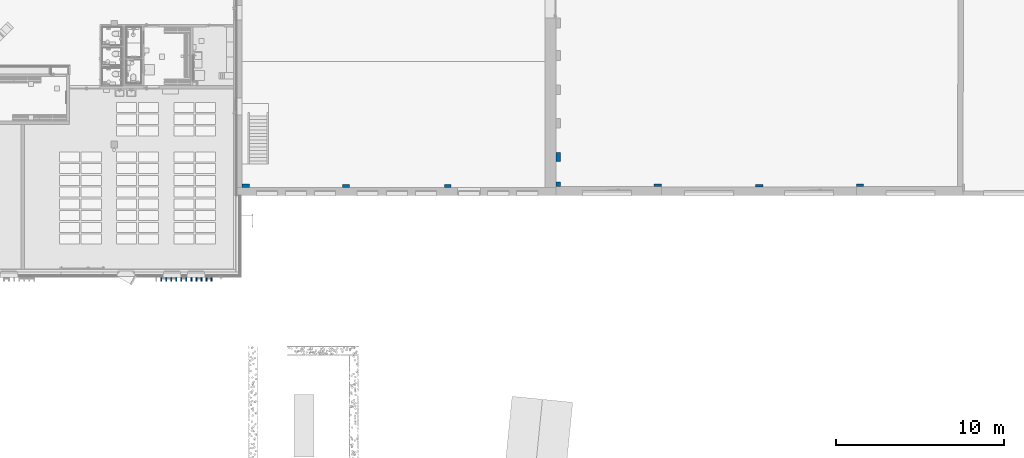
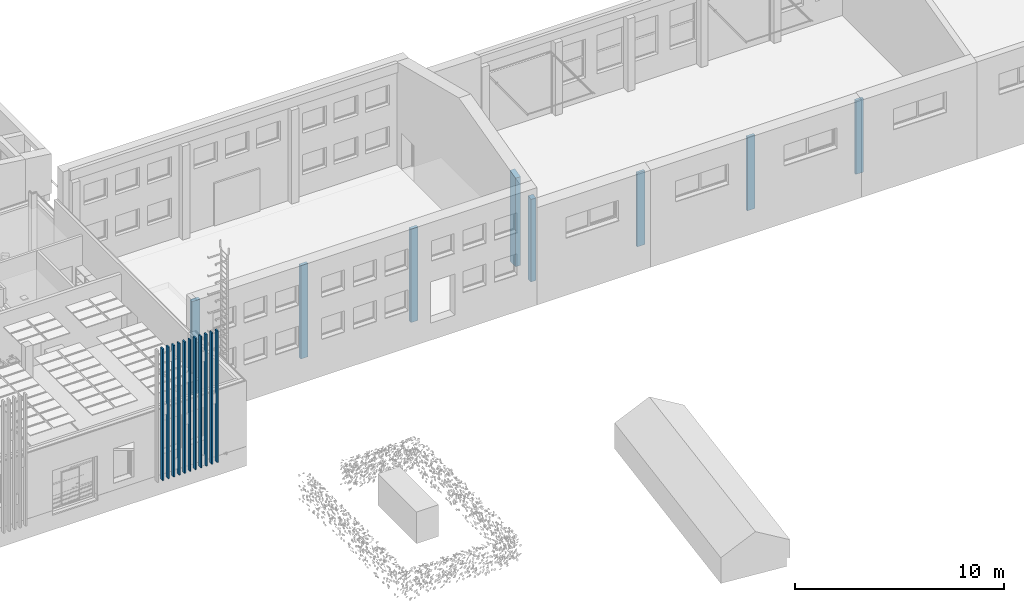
# One storey, part 19 of 301: 19 columns.
"""IFC2X3 building model written with IfcOpenShell, lengths in millimetres."""

from ifc_helpers import new_model, entity, si_unit, converted_unit, derived_unit, money_unit, direction, frame, origin_with_axes, place, context, subcontext, project, spatial, faceted_brep, material, type_object, element, save


model = new_model("IFC2X3")

# Units and contexts
model_context = context("Model", 3, precision=0.01, world=origin_with_axes(), true_north=direction((0.0, 1.0)))
body_context = subcontext(model_context, "Body", "Model", "MODEL_VIEW")
ifc_project = project(units=[si_unit("LENGTHUNIT", "METRE", prefix="MILLI"), si_unit("AREAUNIT", "SQUARE_METRE"), si_unit("VOLUMEUNIT", "CUBIC_METRE"), converted_unit("PLANEANGLEUNIT", "DEGREE", entity("IfcPlaneAngleMeasure", 0.0174532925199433), si_unit("PLANEANGLEUNIT", "RADIAN"), dimensions=[0, 0, 0, 0, 0, 0, 0]), money_unit("EUR"), converted_unit("TIMEUNIT", "Year", entity("IfcTimeMeasure", 31557600.0), si_unit("TIMEUNIT", "SECOND"), dimensions=[0, 0, 1, 0, 0, 0, 0]), si_unit("MASSUNIT", "GRAM", prefix="KILO"), si_unit("THERMODYNAMICTEMPERATUREUNIT", "DEGREE_CELSIUS"), si_unit("LUMINOUSINTENSITYUNIT", "LUMEN"), si_unit("ENERGYUNIT", "JOULE", prefix="MEGA"), derived_unit("THERMALCONDUCTANCEUNIT", [(si_unit("POWERUNIT", "WATT"), 1), (si_unit("LENGTHUNIT", "METRE"), -1), (si_unit("THERMODYNAMICTEMPERATUREUNIT", "KELVIN"), -1)]), derived_unit("SPECIFICHEATCAPACITYUNIT", [(si_unit("ENERGYUNIT", "JOULE"), 1), (si_unit("MASSUNIT", "GRAM", prefix="KILO"), -1), (si_unit("THERMODYNAMICTEMPERATUREUNIT", "KELVIN"), -1)]), derived_unit("MASSDENSITYUNIT", [(si_unit("MASSUNIT", "GRAM", prefix="KILO"), 1), (si_unit("VOLUMEUNIT", "CUBIC_METRE"), -1)])], contexts=[model_context])

# Site, building, storey
site_placement = place(None, frame((0.0, 0.0, 8650.0), z_axis=(0.0, 0.0, 1.0), x_axis=(1.0, 0.0, 0.0)))
site = spatial("IfcSite", under=ifc_project, at=site_placement, Name="43301:001:0844", CompositionType="ELEMENT")
building_placement = place(site_placement, origin_with_axes())
building = spatial("IfcBuilding", under=site, at=building_placement, Name="Kuressaare Ametikooli tuulikute mehaanikute õppekorpus", CompositionType="ELEMENT")
storey_placement = place(building_placement, origin_with_axes())
storey = spatial("IfcBuildingStorey", under=building, at=storey_placement, Name="1.korrus", CompositionType="ELEMENT", Elevation=0.0)

# Columns
ifc_material = material(Name="GENEERILINE - KONSTRUKTRIOON")
column_type_1 = type_object("IfcColumnType", Name="GENEERILINE - KONSTRUKTRIOON 200 x 75", PredefinedType="NOTDEFINED")
for number, where, z_axis, x_axis in (
    (1, (131421.2559016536, 8523.838490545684, 100.0000000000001), (0.0, 0.0, 1.0), (0.0, -1.0, 0.0)),
    (2, (131721.2559016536, 8523.838490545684, 100.0000000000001), (0.0, 0.0, 1.0), (0.0, -1.0, 0.0)),
    (3, (131121.2559016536, 8523.838490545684, 100.0000000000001), (0.0, 0.0, 1.0), (0.0, -1.0, 0.0)),
    (4, (128721.2559016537, 8523.838490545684, 100.0000000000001), (0.0, 0.0, 1.0), (0.0, -1.0, 0.0)),
    (5, (129021.2559016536, 8523.838490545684, 100.0000000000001), (0.0, 0.0, 1.0), (0.0, -1.0, 0.0)),
    (6, (129621.2559016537, 8523.838490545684, 100.0000000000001), (0.0, 0.0, 1.0), (0.0, -1.0, 0.0)),
    (7, (129321.2559016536, 8523.838490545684, 100.0000000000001), (0.0, 0.0, 1.0), (0.0, -1.0, 0.0)),
    (8, (129921.2559016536, 8523.838490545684, 100.0000000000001), (0.0, 0.0, 1.0), (0.0, -1.0, 0.0)),
    (9, (130521.2559016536, 8523.838490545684, 100.0000000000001), (0.0, 0.0, 1.0), (0.0, -1.0, 0.0)),
    (10, (130221.2559016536, 8523.838490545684, 100.0000000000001), (0.0, 0.0, 1.0), (0.0, -1.0, 0.0)),
    (11, (130821.2559016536, 8523.838490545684, 100.0000000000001), (0.0, 0.0, 1.0), (0.0, -1.0, 0.0)),
):
    element("IfcColumn", number, at=place(storey_placement, frame(where, z_axis=z_axis, x_axis=x_axis)), inside=storey, type_object=column_type_1, material=ifc_material, Name="Varjestus_viltu", context=body_context, shape_type="Brep", body=[
        faceted_brep([(-99.99999999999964, -37.49999999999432, 7664.185442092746), (-99.99999999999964, -37.49999999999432, 0.0), (99.99999999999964, -37.49999999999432, 0.0), (99.99999999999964, -37.49999999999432, 7664.185442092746), (-99.99999999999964, 37.49999999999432, 7670.74709185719), (-99.99999999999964, 37.49999999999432, 0.0), (99.99999999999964, 37.49999999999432, 0.0), (99.99999999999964, 37.49999999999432, 7670.74709185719)], [[[0, 1, 2, 3]], [[4, 5, 1, 0]], [[2, 1, 5, 6]], [[3, 2, 6, 7]], [[4, 0, 3, 7]], [[7, 6, 5, 4]]]),
    ])
column_type_2 = type_object("IfcColumnType", Name="GENEERILINE - KONSTRUKTRIOON 550 x 275", PredefinedType="NOTDEFINED")
column_1_placement = place(storey_placement, frame((152391.1205464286, 15818.71198156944, 0.0), z_axis=(0.0, 0.0, 1.0), x_axis=(0.0, 1.0, 0.0)))
element("IfcColumn", 12, at=column_1_placement, inside=storey, type_object=column_type_2, material=ifc_material, context=body_context, shape_type="Brep", body=[
    faceted_brep([(275.0004922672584, 137.5002459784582, 5297.254206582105), (275.00049227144, -137.5002461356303, 5297.254206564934), (275.00049227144, -137.5002461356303, 0.0), (275.00049227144, 137.5002461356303, 0.0), (-275.00049227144, -137.5002461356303, 5163.332438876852), (-275.0004922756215, 137.5002459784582, 5163.332438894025), (-275.00049227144, -137.5002461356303, 0.0), (-275.00049227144, 137.5002461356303, 0.0)], [[[0, 1, 2, 3]], [[4, 1, 0, 5]], [[1, 4, 6, 2]], [[7, 3, 2, 6]], [[5, 0, 3, 7]], [[4, 5, 7, 6]]]),
])
column_type_3 = type_object("IfcColumnType", Name="GENEERILINE - KONSTRUKTRIOON 450 x 210", PredefinedType="NOTDEFINED")
column_2_placement = place(storey_placement, frame((133759.9466008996, 14122.65772019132, 0.0), z_axis=(0.0, 0.0, 1.0), x_axis=(-1.0, 0.0, 0.0)))
element("IfcColumn", 13, at=column_2_placement, inside=storey, type_object=column_type_3, material=ifc_material, context=body_context, shape_type="Brep", body=[
    faceted_brep([(225.0001592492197, 105.0000032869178, 5450.0), (225.0001592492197, 105.0000032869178, 0.0), (-225.0001592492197, 105.0000032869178, 0.0), (-225.0001592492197, 105.0000032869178, 5450.0), (225.0001592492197, -105.0000032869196, 5450.0), (225.0001592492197, -105.0000032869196, 0.0), (-225.0001592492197, -105.0000032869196, 0.0), (-225.0001592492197, -105.0000032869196, 5450.0)], [[[0, 1, 2, 3]], [[4, 5, 1, 0]], [[2, 1, 5, 6]], [[3, 2, 6, 7]], [[4, 0, 3, 7]], [[7, 6, 5, 4]]]),
])
column_type_4 = type_object("IfcColumnType", Name="GENEERILINE - KONSTRUKTRIOON 400 x 175", PredefinedType="NOTDEFINED")
for number, where, z_axis, x_axis in (
    (14, (139736.6004625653, 14105.15778940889, 0.0), (0.0, 0.0, 1.0), (-1.0, 0.0, 0.0)),
    (15, (145796.6004625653, 14105.15778940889, 0.0), (0.0, 0.0, 1.0), (-1.0, 0.0, 0.0)),
):
    element("IfcColumn", number, at=place(storey_placement, frame(where, z_axis=z_axis, x_axis=x_axis)), inside=storey, type_object=column_type_4, material=ifc_material, context=body_context, shape_type="Brep", body=[
        faceted_brep([(200.0003092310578, 87.50007250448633, 5450.0), (200.0003092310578, 87.50007250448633, 0.0), (-200.0003092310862, 87.50007250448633, 0.0), (-200.0003092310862, 87.50007250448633, 5450.0), (200.0003092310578, -87.50007250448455, 5450.0), (200.0003092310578, -87.50007250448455, 0.0), (-200.0003092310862, -87.50007250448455, 0.0), (-200.0003092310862, -87.50007250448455, 5450.0)], [[[0, 1, 2, 3]], [[4, 5, 1, 0]], [[2, 1, 5, 6]], [[3, 2, 6, 7]], [[4, 0, 3, 7]], [[7, 6, 5, 4]]]),
    ])
column_type_5 = type_object("IfcColumnType", Name="GENEERILINE - KONSTRUKTRIOON 270 x 275", PredefinedType="NOTDEFINED")
column_3_placement = place(storey_placement, frame((152391.1205464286, 14212.65871220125, 0.0), z_axis=(0.0, 0.0, 1.0), x_axis=(0.0, 1.0, 0.0)))
element("IfcColumn", 16, at=column_3_placement, inside=storey, type_object=column_type_5, material=ifc_material, context=body_context, shape_type="Brep", body=[
    faceted_brep([(135.0009952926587, 137.5002459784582, 4872.101380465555), (135.0009952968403, -137.5002461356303, 4872.101380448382), (135.0009952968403, -137.5002461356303, 0.0), (135.0009952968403, 137.5002461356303, 0.0), (-135.0009952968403, -137.5002461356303, 4806.357600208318), (-135.0009953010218, 137.5002459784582, 4806.357600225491), (-135.0009952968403, -137.5002461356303, 0.0), (-135.0009952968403, 137.5002461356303, 0.0)], [[[0, 1, 2, 3]], [[4, 1, 0, 5]], [[1, 4, 6, 2]], [[7, 3, 2, 6]], [[5, 0, 3, 7]], [[4, 5, 7, 6]]]),
])
column_type_6 = type_object("IfcColumnType", Name="GENEERILINE - KONSTRUKTRIOON 420 x 130", PredefinedType="NOTDEFINED")
column_4_placement = place(storey_placement, frame((158320.4641716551, 14142.15058608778, 0.0), z_axis=(0.0, 0.0, 1.0), x_axis=(-1.0, 0.0, 0.0)))
element("IfcColumn", 17, at=column_4_placement, inside=storey, type_object=column_type_6, material=ifc_material, context=body_context, shape_type="Brep", body=[
    faceted_brep([(-210.0000007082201, -65.00071807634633, 4300.0), (-210.0000007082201, -65.00071807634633, 0.0), (210.0000007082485, -65.00071807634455, 0.0), (210.0000007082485, -65.00071807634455, 4300.0), (-210.0000007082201, 65.000718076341, 4300.0), (-210.0000007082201, 65.000718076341, 0.0), (210.0000007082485, 65.00071807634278, 0.0), (210.0000007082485, 65.00071807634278, 4300.0)], [[[0, 1, 2, 3]], [[4, 5, 1, 0]], [[2, 1, 5, 6]], [[3, 2, 6, 7]], [[4, 0, 3, 7]], [[7, 6, 5, 4]]]),
])
column_type_7 = type_object("IfcColumnType", Name="GENEERILINE - KONSTRUKTRIOON 420 x 140", PredefinedType="NOTDEFINED")
for number, where, z_axis, x_axis in (
    (18, (164370.4641716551, 14107.65778281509, 0.0), (0.0, 0.0, 1.0), (-1.0, 0.0, 0.0)),
    (19, (170370.8131125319, 14147.65778281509, 0.0), (0.0, 0.0, 1.0), (-1.0, 0.0, 0.0)),
):
    element("IfcColumn", number, at=place(storey_placement, frame(where, z_axis=z_axis, x_axis=x_axis)), inside=storey, type_object=column_type_7, material=ifc_material, context=body_context, shape_type="Brep", body=[
        faceted_brep([(-210.0000007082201, -70.00006591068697, 4300.0), (-210.0000007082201, -70.00006591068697, 0.0), (210.0000007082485, -70.00006591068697, 0.0), (210.0000007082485, -70.00006591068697, 4300.0), (-210.0000007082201, 70.0000659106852, 4300.0), (-210.0000007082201, 70.0000659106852, 0.0), (210.0000007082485, 70.0000659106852, 0.0), (210.0000007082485, 70.0000659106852, 4300.0)], [[[0, 1, 2, 3]], [[4, 5, 1, 0]], [[2, 1, 5, 6]], [[3, 2, 6, 7]], [[4, 0, 3, 7]], [[7, 6, 5, 4]]]),
    ])

save(model, "model.ifc")
